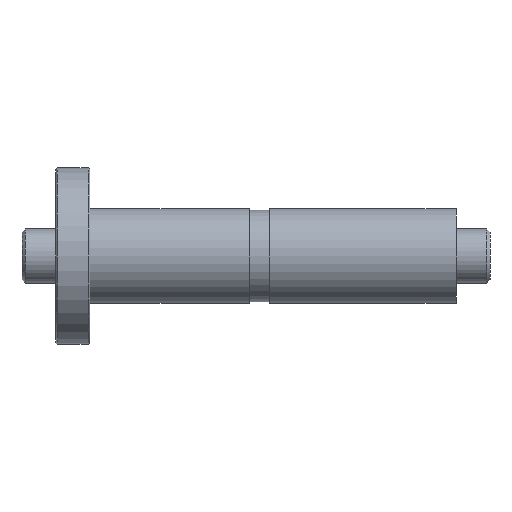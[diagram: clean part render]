
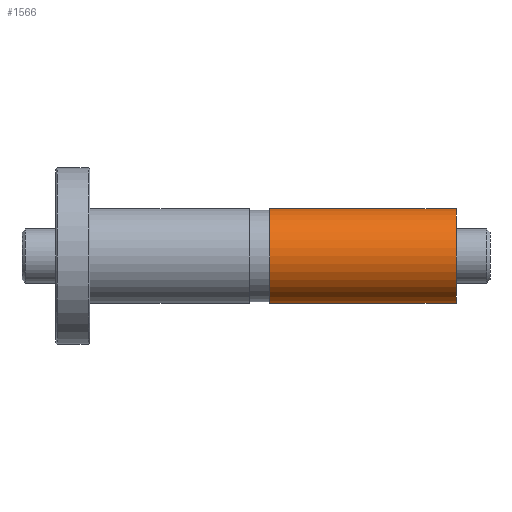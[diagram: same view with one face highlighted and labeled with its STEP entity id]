
A CAD part, front view. The second image highlights one B-rep face of the part: STEP entity #1566.
In plain terms, the highlighted cylindrical face has radius 14 mm (diameter 28 mm), a partial arc.
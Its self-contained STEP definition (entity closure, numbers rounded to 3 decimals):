
#22 = DIRECTION ( 'NONE',  ( 0., 0., -1. ) ) ;
#38 = EDGE_CURVE ( 'NONE', #2625, #3472, #3037, .T. ) ;
#210 = DIRECTION ( 'NONE',  ( -1., 0., 0. ) ) ;
#285 = DIRECTION ( 'NONE',  ( -1., 0., 0. ) ) ;
#561 = CARTESIAN_POINT ( 'NONE',  ( 63., 0., -14. ) ) ;
#577 = DIRECTION ( 'NONE',  ( 0., 0., 1. ) ) ;
#1050 = CARTESIAN_POINT ( 'NONE',  ( 118., 0., 0. ) ) ;
#1116 = AXIS2_PLACEMENT_3D ( 'NONE', #1581, #285, #577 ) ;
#1512 = DIRECTION ( 'NONE',  ( -1., 0., 0. ) ) ;
#1562 = DIRECTION ( 'NONE',  ( 1., 0., 0. ) ) ;
#1566 = ADVANCED_FACE ( 'NONE', ( #1621 ), #3041, .T. ) ;
#1570 = CARTESIAN_POINT ( 'NONE',  ( 118., 0., 14. ) ) ;
#1581 = CARTESIAN_POINT ( 'NONE',  ( 118., 0., 0. ) ) ;
#1621 = FACE_OUTER_BOUND ( 'NONE', #3545, .T. ) ;
#1784 = ORIENTED_EDGE ( 'NONE', *, *, #38, .T. ) ;
#1813 = CIRCLE ( 'NONE', #2353, 14. ) ;
#1860 = CARTESIAN_POINT ( 'NONE',  ( 63., 0., 0. ) ) ;
#1930 = CARTESIAN_POINT ( 'NONE',  ( 118., 0., 14. ) ) ;
#2150 = CARTESIAN_POINT ( 'NONE',  ( 118., 0., -14. ) ) ;
#2177 = VECTOR ( 'NONE', #210, 1000. ) ;
#2274 = ORIENTED_EDGE ( 'NONE', *, *, #2390, .F. ) ;
#2296 = CARTESIAN_POINT ( 'NONE',  ( 63., 0., 14. ) ) ;
#2331 = DIRECTION ( 'NONE',  ( 1., 0., 0. ) ) ;
#2353 = AXIS2_PLACEMENT_3D ( 'NONE', #1050, #2331, #22 ) ;
#2390 = EDGE_CURVE ( 'NONE', #4072, #3472, #2786, .T. ) ;
#2535 = AXIS2_PLACEMENT_3D ( 'NONE', #1860, #1562, #3818 ) ;
#2613 = CARTESIAN_POINT ( 'NONE',  ( 118., 0., -14. ) ) ;
#2625 = VERTEX_POINT ( 'NONE', #2296 ) ;
#2786 = LINE ( 'NONE', #2150, #2177 ) ;
#2826 = VECTOR ( 'NONE', #1512, 1000. ) ;
#2899 = VERTEX_POINT ( 'NONE', #1570 ) ;
#3037 = CIRCLE ( 'NONE', #2535, 14. ) ;
#3041 = CYLINDRICAL_SURFACE ( 'NONE', #1116, 14. ) ;
#3153 = EDGE_CURVE ( 'NONE', #2899, #4072, #1813, .T. ) ;
#3162 = ORIENTED_EDGE ( 'NONE', *, *, #3153, .F. ) ;
#3370 = ORIENTED_EDGE ( 'NONE', *, *, #3418, .T. ) ;
#3418 = EDGE_CURVE ( 'NONE', #2899, #2625, #3633, .T. ) ;
#3472 = VERTEX_POINT ( 'NONE', #561 ) ;
#3545 = EDGE_LOOP ( 'NONE', ( #2274, #3162, #3370, #1784 ) ) ;
#3633 = LINE ( 'NONE', #1930, #2826 ) ;
#3818 = DIRECTION ( 'NONE',  ( 0., 0., -1. ) ) ;
#4072 = VERTEX_POINT ( 'NONE', #2613 ) ;
